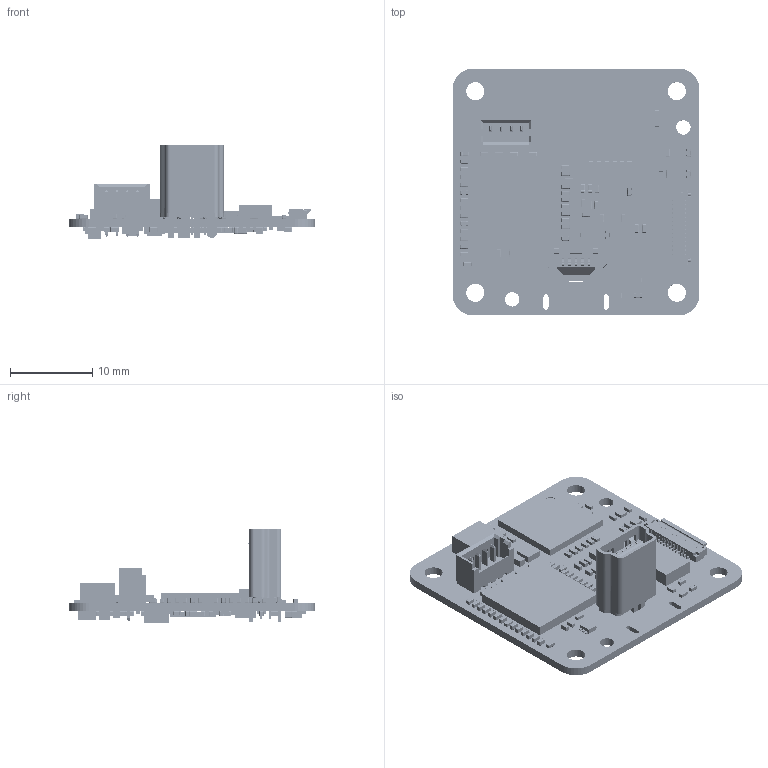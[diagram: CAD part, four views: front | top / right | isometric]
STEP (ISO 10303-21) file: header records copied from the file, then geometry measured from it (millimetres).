
FILE_DESCRIPTION(('Open CASCADE Model'),'2;1');
FILE_NAME('Open CASCADE Shape Model','2024-03-08T17:46:00',('Author'),( 'Open CASCADE'),'Open CASCADE STEP processor 6.8','Open CASCADE 6.8' ,'Unknown');
FILE_SCHEMA(('AUTOMOTIVE_DESIGN { 1 0 10303 214 1 1 1 1 }'));
Length unit declared in the file: millimetre
Products named in the file (271): PCB; Board; Open CASCADE STEP translator 6.8 3.1.1; J2x; TE-Micro-USB2-1734753-1-a-3d; U9; 6577573280; Extruded; R44; TIS_0402R_L02_H04; C2; TIS_0402C_L025_H05; C1; C106; C29; C27; C24; C22; TIS_0402C_L025_H06; R42; R2; C17; U1; 6577574080; 6577570400; U8; U15; R34; R36; R41; R35; R33; R32; U10; 7274250960; R37; R6; R3; C4; C9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
Assembly tree (954 placements, depth 5):
  PCB
    Board
      Open CASCADE STEP translator 6.8 3.1.1
    J2x
      TE-Micro-USB2-1734753-1-a-3d
    U9
      6577573280
        Extruded
    R44
      TIS_0402R_L02_H04
      TIS_0402R_L02_H04
      TIS_0402R_L02_H04
      TIS_0402R_L02_H04
    C2
      TIS_0402C_L025_H05
      TIS_0402C_L025_H05
      TIS_0402C_L025_H05
    C1
      TIS_0402C_L025_H05
      TIS_0402C_L025_H05
      TIS_0402C_L025_H05
    C106
      TIS_0402C_L025_H05
      TIS_0402C_L025_H05
      TIS_0402C_L025_H05
    C29
      TIS_0402C_L025_H05
      TIS_0402C_L025_H05
      TIS_0402C_L025_H05
    C27
      TIS_0402C_L025_H05
      TIS_0402C_L025_H05
      TIS_0402C_L025_H05
    C24
      TIS_0402C_L025_H05
      TIS_0402C_L025_H05
      TIS_0402C_L025_H05
    C22
      TIS_0402C_L025_H06
      TIS_0402C_L025_H06
      TIS_0402C_L025_H06
    R42
      TIS_0402R_L02_H04
      TIS_0402R_L02_H04
      TIS_0402R_L02_H04
      TIS_0402R_L02_H04
    R2
      TIS_0402R_L02_H04
      TIS_0402R_L02_H04
      TIS_0402R_L02_H04
      TIS_0402R_L02_H04
    C17
      TIS_0402C_L025_H06
      TIS_0402C_L025_H06
      TIS_0402C_L025_H06
    U1
      6577574080
        Extruded
      6577570400
        Extruded
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Bounding box: 30.01 x 30 x 11.45 mm (x, y, z)
Volume: 1475.1 mm3; surface area: 4362.5 mm2
Topology: 747 solids, 748 shells, 11131 faces, 25797 edges, 14873 vertices
Faces by surface type: plane 4749, cylinder 3929, sphere 1169, torus 992, bspline 288, cone 4
Full cylindrical faces by diameter (mm): 0.5 x4, 1.125 x1, 1.75 x2, 2.2 x4
Entity records: 77378 total; most frequent: CARTESIAN_POINT 15171, DIRECTION 10966, ORIENTED_EDGE 10813, EDGE_CURVE 5407, LINE 4142, VECTOR 4142, VERTEX_POINT 3514, AXIS2_PLACEMENT_3D 3412
